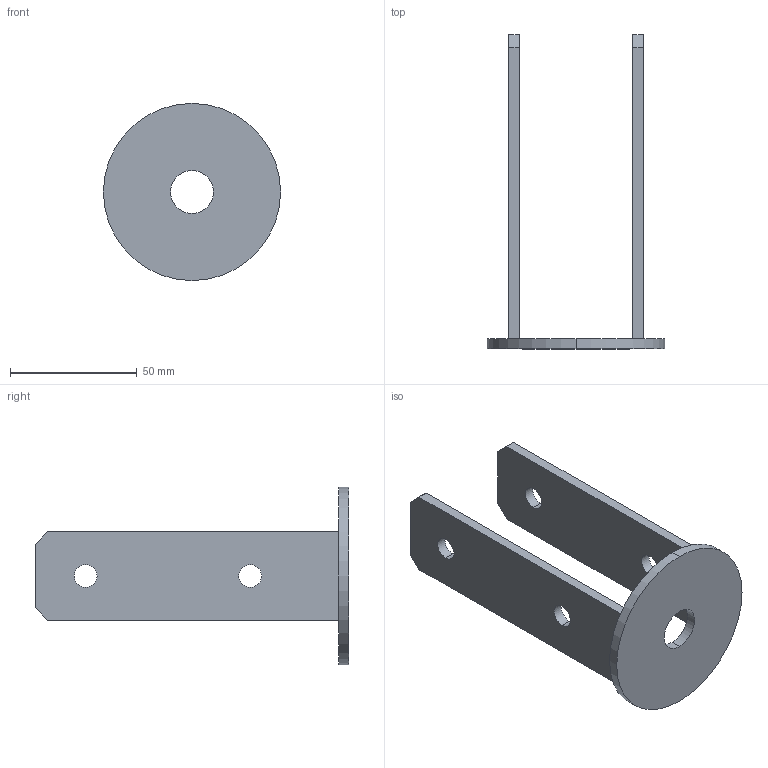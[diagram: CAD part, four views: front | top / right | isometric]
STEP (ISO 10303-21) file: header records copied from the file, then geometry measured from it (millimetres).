
FILE_DESCRIPTION (( 'STEP AP203' ), '1' );
FILE_NAME ('084.106.166.STEP', '2013-01-23T09:52:26', ( 'Alusic' ), ( 'Alusic' ), 'SwSTEP 2.0', 'SolidWorks 2011', '' );
FILE_SCHEMA (( 'CONFIG_CONTROL_DESIGN' ));
Length unit declared in the file: millimetre
Products named in the file (1): 084.106.166
Bounding box: 70 x 124 x 70 mm (x, y, z)
Volume: 46868 mm3; surface area: 26852.8 mm2
Topology: 1 solids, 1 shells, 28 faces, 72 edges, 48 vertices
Faces by surface type: plane 16, cylinder 12
Entity records: 957 total; most frequent: DIRECTION 154, CARTESIAN_POINT 149, ORIENTED_EDGE 144, EDGE_CURVE 72, AXIS2_PLACEMENT_3D 53, VERTEX_POINT 48, VECTOR 48, LINE 48
